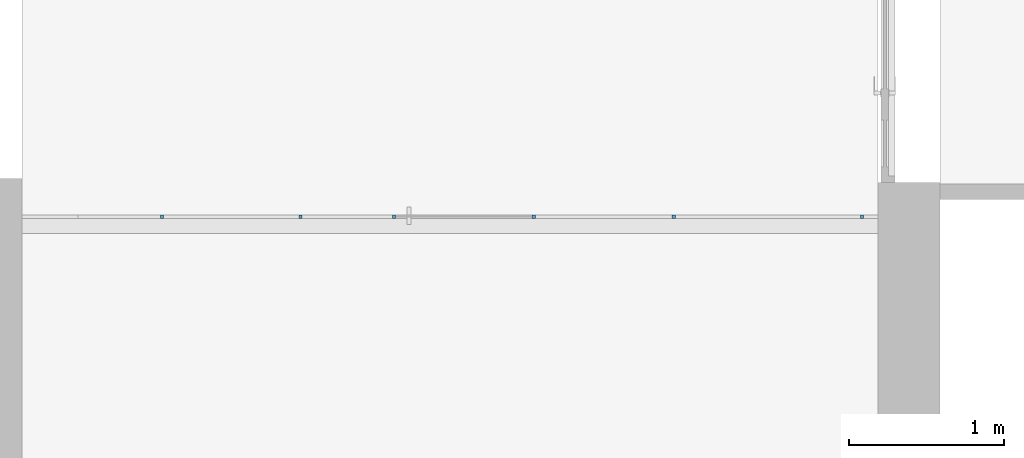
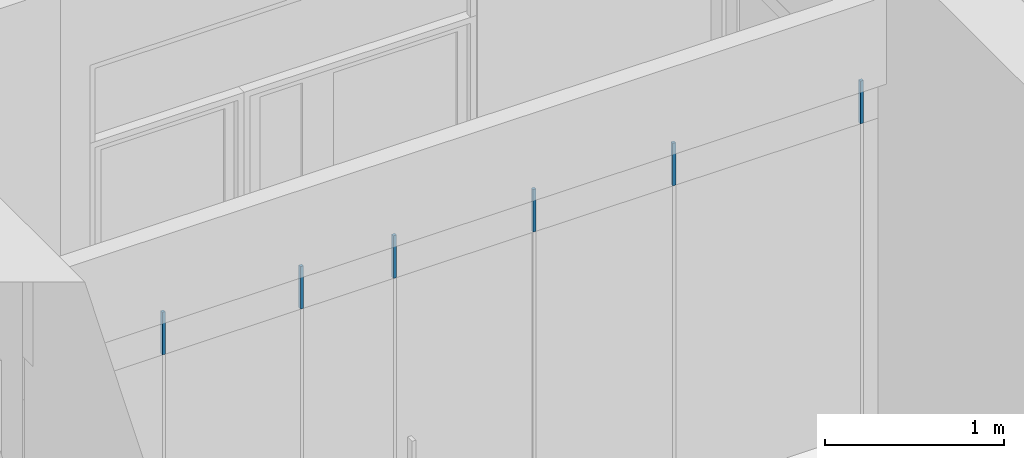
# One storey, part 8 of 73: 6 members, 1 element without a shape of its own.
"""IFC2X3 building model written with IfcOpenShell, lengths in millimetres."""

from ifc_helpers import new_model, entity, si_unit, converted_unit, derived_unit, direction, frame, origin, origin_2d_with_axis, place, context, subcontext, project, spatial, rectangle, extrude, source, transform, mapped, material, type_object, type_shapes, element, aggregate, save


model = new_model("IFC2X3")

# Units and contexts
model_context = context("Model", 3, precision=0.01, world=origin(), true_north=direction((6.12303176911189e-17, 1.0)))
body_context = subcontext(model_context, "Body", "Model", "MODEL_VIEW")
ifc_project = project(units=[si_unit("LENGTHUNIT", "METRE", prefix="MILLI"), si_unit("AREAUNIT", "SQUARE_METRE"), si_unit("VOLUMEUNIT", "CUBIC_METRE"), converted_unit("PLANEANGLEUNIT", "DEGREE", entity("IfcRatioMeasure", 0.0174532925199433), si_unit("PLANEANGLEUNIT", "RADIAN"), dimensions=[0, 0, 0, 0, 0, 0, 0]), si_unit("MASSUNIT", "GRAM", prefix="KILO"), derived_unit("MASSDENSITYUNIT", [(si_unit("MASSUNIT", "GRAM", prefix="KILO"), 1), (si_unit("LENGTHUNIT", "METRE"), -3)]), si_unit("TIMEUNIT", "SECOND"), si_unit("FREQUENCYUNIT", "HERTZ"), si_unit("THERMODYNAMICTEMPERATUREUNIT", "DEGREE_CELSIUS"), derived_unit("THERMALTRANSMITTANCEUNIT", [(si_unit("MASSUNIT", "GRAM", prefix="KILO"), 1), (si_unit("THERMODYNAMICTEMPERATUREUNIT", "KELVIN"), -1), (si_unit("TIMEUNIT", "SECOND"), -3)]), derived_unit("VOLUMETRICFLOWRATEUNIT", [(si_unit("LENGTHUNIT", "METRE"), 3), (si_unit("TIMEUNIT", "SECOND"), -1)]), si_unit("ELECTRICCURRENTUNIT", "AMPERE"), si_unit("ELECTRICVOLTAGEUNIT", "VOLT"), si_unit("POWERUNIT", "WATT"), si_unit("FORCEUNIT", "NEWTON", prefix="KILO"), si_unit("ILLUMINANCEUNIT", "LUX"), si_unit("LUMINOUSFLUXUNIT", "LUMEN"), si_unit("LUMINOUSINTENSITYUNIT", "CANDELA"), derived_unit("USERDEFINED", [(si_unit("MASSUNIT", "GRAM", prefix="KILO"), -1), (si_unit("LENGTHUNIT", "METRE"), -2), (si_unit("TIMEUNIT", "SECOND"), 3), (si_unit("LUMINOUSFLUXUNIT", "LUMEN"), 1)]), derived_unit("LINEARVELOCITYUNIT", [(si_unit("LENGTHUNIT", "METRE"), 1), (si_unit("TIMEUNIT", "SECOND"), -1)]), si_unit("PRESSUREUNIT", "PASCAL"), derived_unit("USERDEFINED", [(si_unit("LENGTHUNIT", "METRE"), -2), (si_unit("MASSUNIT", "GRAM", prefix="KILO"), 1), (si_unit("TIMEUNIT", "SECOND"), -2)])], contexts=[model_context])

# Site, building, storey
site_placement = place(None, frame((-151.875543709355, 2715.0, 0.0)))
site = spatial("IfcSite", under=ifc_project, at=site_placement, Name="Surface", CompositionType="ELEMENT")
building_placement = place(site_placement, origin())
building = spatial("IfcBuilding", under=site, at=building_placement, CompositionType="ELEMENT")
storey_placement = place(building_placement, frame((0.0, 0.0, 6730.43000000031)))
storey = spatial("IfcBuildingStorey", under=building, at=storey_placement, Name="3 korrus", CompositionType="ELEMENT", Elevation=6730.43000000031)

# Curtain wall, members
curtain_wall_type = type_object("IfcCurtainWallType", Name="Curtain Wall:Klaassein KLS-07", PredefinedType="NOTDEFINED")
curtain_wall_placement = place(storey_placement, frame((0.0, 0.0, -6730.43000000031)))
curtain_wall = element("IfcCurtainWall", 1, at=curtain_wall_placement, inside=storey, type_object=curtain_wall_type, Name="Curtain Wall:Klaassein KLS-07", ObjectType="Curtain Wall:Klaassein KLS-07")
ifc_material = material(Name="__Uks_hele tamm")
member_type = type_object("IfcMemberType", Name="20 x 20mm", PredefinedType="MEMBER")
shared_shape = source(origin(), body_context, "Body", "SweptSolid", [
    extrude(rectangle(XDim=20.0, YDim=20.0, at=origin_2d_with_axis()), frame((0.0, 0.0, -290.0), z_axis=(0.0, 0.0, 1.0), x_axis=(0.0, -1.0, 0.0)), (0.0, 0.0, 1.0), 290.0),
])
type_shapes(member_type, [shared_shape])
member_1_placement = place(storey_placement, frame((1359.87554580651, 4155.04146275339, 2110.0), z_axis=(0.0, 0.0, -1.0), x_axis=(1.0, 0.0, 0.0)))
member_1 = element("IfcMember", 2, at=member_1_placement, type_object=member_type, material=ifc_material, Name="Rectangular Mullion:20 x 20mm", ObjectType="20 x 20mm", context=body_context, shape_type="MappedRepresentation", body=[
    mapped(shared_shape, transform((0.0, 0.0, 0.0), scale=1.0)),
])
member_2_placement = place(storey_placement, frame((2249.87554580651, 4155.04146275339, 2110.0), z_axis=(0.0, 0.0, -1.0), x_axis=(1.0, 0.0, 0.0)))
member_2 = element("IfcMember", 3, at=member_2_placement, type_object=member_type, material=ifc_material, Name="Rectangular Mullion:20 x 20mm", ObjectType="20 x 20mm", context=body_context, shape_type="MappedRepresentation", body=[
    mapped(shared_shape, transform((0.0, 0.0, 0.0), scale=1.0)),
])
member_3_placement = place(storey_placement, frame((2849.87554580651, 4155.04146275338, 2110.0), z_axis=(0.0, 0.0, -1.0), x_axis=(1.0, 0.0, 0.0)))
member_3 = element("IfcMember", 4, at=member_3_placement, type_object=member_type, material=ifc_material, Name="Rectangular Mullion:20 x 20mm", ObjectType="20 x 20mm", context=body_context, shape_type="MappedRepresentation", body=[
    mapped(shared_shape, transform((0.0, 0.0, 0.0), scale=1.0)),
])
member_4_placement = place(storey_placement, frame((3749.87554580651, 4155.04146275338, 2110.0), z_axis=(0.0, 0.0, -1.0), x_axis=(1.0, 0.0, 0.0)))
member_4 = element("IfcMember", 5, at=member_4_placement, type_object=member_type, material=ifc_material, Name="Rectangular Mullion:20 x 20mm", ObjectType="20 x 20mm", context=body_context, shape_type="MappedRepresentation", body=[
    mapped(shared_shape, transform((0.0, 0.0, 0.0), scale=1.0)),
])
member_5_placement = place(storey_placement, frame((4649.87554580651, 4155.04146275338, 2110.0), z_axis=(0.0, 0.0, -1.0), x_axis=(1.0, 0.0, 0.0)))
member_5 = element("IfcMember", 6, at=member_5_placement, type_object=member_type, material=ifc_material, Name="Rectangular Mullion:20 x 20mm", ObjectType="20 x 20mm", context=body_context, shape_type="MappedRepresentation", body=[
    mapped(shared_shape, transform((0.0, 0.0, 0.0), scale=1.0)),
])
member_6_placement = place(storey_placement, frame((5859.87554580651, 4155.04146275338, 2110.0), z_axis=(0.0, 0.0, -1.0), x_axis=(1.0, 0.0, 0.0)))
member_6 = element("IfcMember", 7, at=member_6_placement, type_object=member_type, material=ifc_material, Name="Rectangular Mullion:20 x 20mm", ObjectType="20 x 20mm", context=body_context, shape_type="MappedRepresentation", body=[
    mapped(shared_shape, transform((0.0, 0.0, 0.0), scale=1.0)),
])
aggregate(curtain_wall, [member_1, member_2, member_3, member_4, member_5, member_6])

save(model, "model.ifc")
